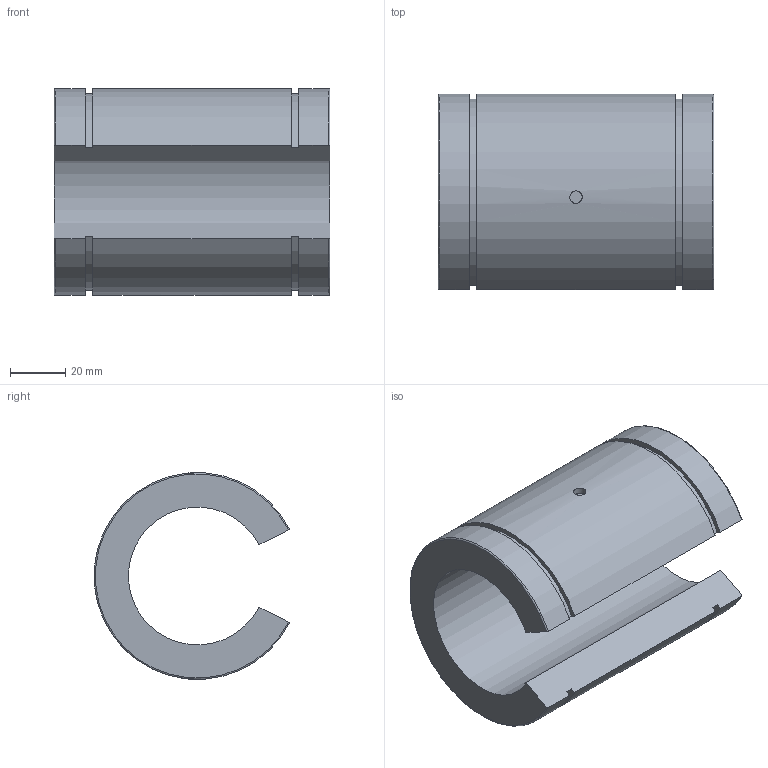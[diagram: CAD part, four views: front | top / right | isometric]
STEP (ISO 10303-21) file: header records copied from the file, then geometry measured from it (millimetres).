
FILE_DESCRIPTION(('STEP AP203'),'1');
FILE_NAME('//192.168.1.1/share/s-4 技術開発/s-4-4_CAD/s-4-4-3_見直し済み/007 修正済み/SB-OP/SB-50OP.step','2022-02-17T01:35:55',(' '),(' '),'Spatial InterOp 3D',' ',' ');
FILE_SCHEMA(('CONFIG_CONTROL_DESIGN'));
Length unit declared in the file: millimetre
Products named in the file (1): 1
Bounding box: 100 x 70.82 x 75 mm (x, y, z)
Volume: 206986.3 mm3; surface area: 41384.8 mm2
Topology: 1 solids, 1 shells, 20 faces, 49 edges, 33 vertices
Faces by surface type: plane 10, cylinder 8, torus 2
Full cylindrical faces by diameter (mm): 4.5 x1, 5 x1
Entity records: 748 total; most frequent: CARTESIAN_POINT 237, DIRECTION 98, ORIENTED_EDGE 92, EDGE_CURVE 46, AXIS2_PLACEMENT_3D 37, VERTEX_POINT 32, EDGE_LOOP 24, LINE 24
